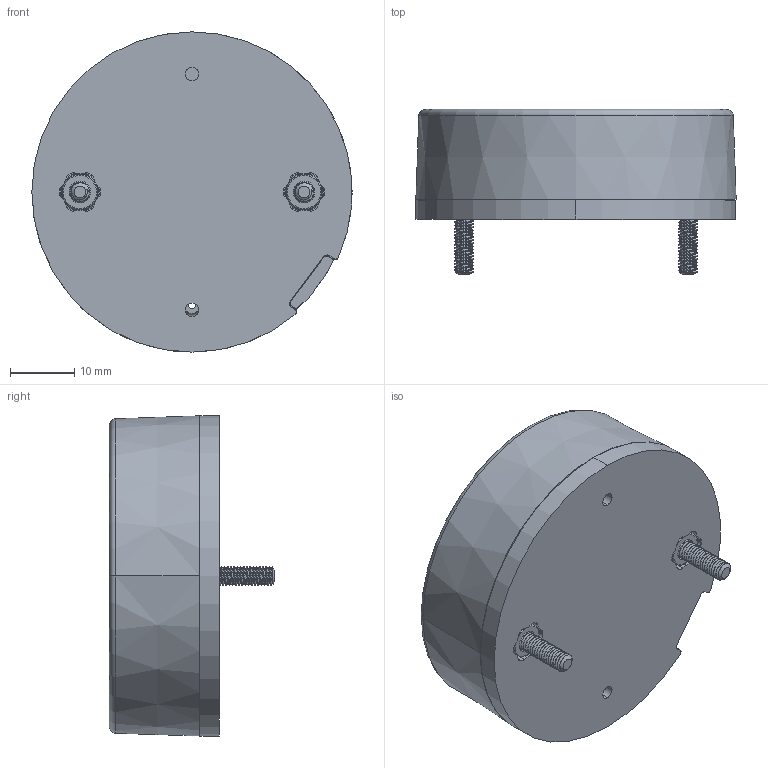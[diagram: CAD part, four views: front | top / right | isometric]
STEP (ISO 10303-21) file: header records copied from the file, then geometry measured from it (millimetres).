
FILE_DESCRIPTION (( 'STEP AP203' ), '1' );
FILE_NAME ('CTM1 09 ASSEMBLY PROFILE.STEP', '2014-11-07T18:47:47', ( '' ), ( '' ), 'SwSTEP 2.0', 'SolidWorks 2012', '' );
FILE_SCHEMA (( 'CONFIG_CONTROL_DESIGN' ));
Length unit declared in the file: inch
Products named in the file (1): CTM1 09 ASSEMBLY PROFILE
Bounding box: 50 x 25.79 x 50 mm (x, y, z)
Volume: 13071.6 mm3; surface area: 18697.3 mm2
Topology: 13 solids, 13 shells, 1736 faces, 4679 edges, 2985 vertices
Faces by surface type: plane 853, cylinder 607, cone 203, torus 63, bspline 10
Entity records: 63709 total; most frequent: CARTESIAN_POINT 22562, ORIENTED_EDGE 9350, DIRECTION 7711, EDGE_CURVE 4675, VERTEX_POINT 2985, LINE 2895, VECTOR 2895, AXIS2_PLACEMENT_3D 2408
